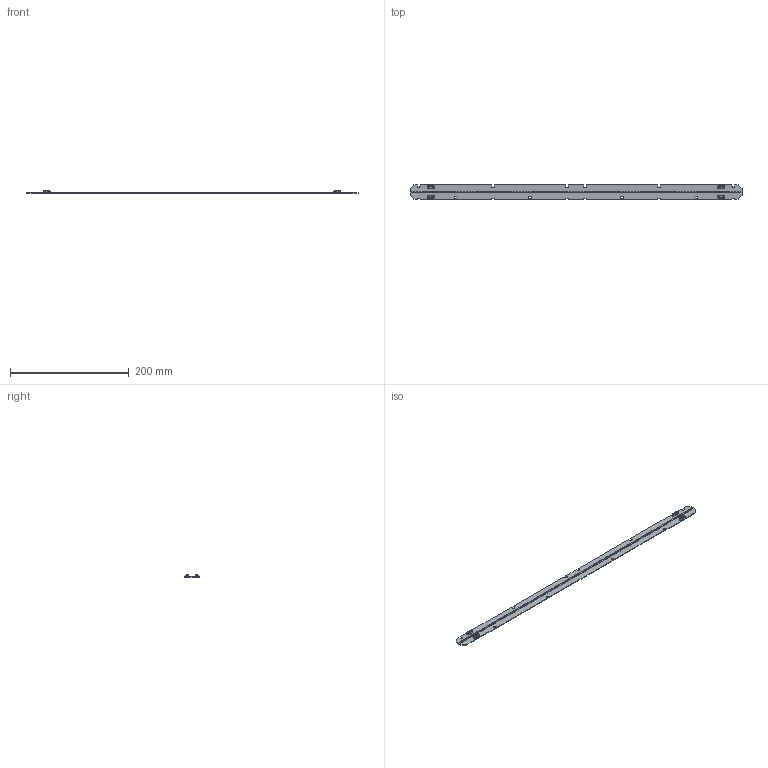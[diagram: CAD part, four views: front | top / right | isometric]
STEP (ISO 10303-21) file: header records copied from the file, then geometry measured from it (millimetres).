
FILE_DESCRIPTION(/* description */ ('Unknown'),/* implementation_level */ '2;1');
FILE_NAME(/* name */ 'LinLED 560x24mm 4000lm 4C 42V sh-000 2023-05-18',/* time_stamp */ '2023-05-18T12:03:15+02:00',/* author */ ('Unknown'),/* organization */ ('Unknown'),/* preprocessor_version */ 'ST-DEVELOPER v18.102',/* originating_system */ 'Solid Edge',/* authorisation */ 'Unknown');
FILE_SCHEMA (('AUTOMOTIVE_DESIGN {1 0 10303 214 3 1 1}'));
Products named in the file (1): LinLED 560x24mm 4000lm 4C 42V sh-000 2023-05-18
Bounding box: 559.6 x 24 x 4.45 mm (x, y, z)
Volume: 14317.1 mm3; surface area: 29371.7 mm2
Topology: 1 solids, 1 shells, 2802 faces, 7316 edges, 4740 vertices
Faces by surface type: plane 2204, cylinder 286, torus 128, cone 100, bspline 52, sphere 32
Full cylindrical faces by diameter (mm): 4.3 x4
Entity records: 106180 total; most frequent: CARTESIAN_POINT 19307, ORIENTED_EDGE 14528, DIRECTION 12466, EDGE_CURVE 7264, LINE 5996, VECTOR 5996, VERTEX_POINT 4728, AXIS2_PLACEMENT_3D 3235
